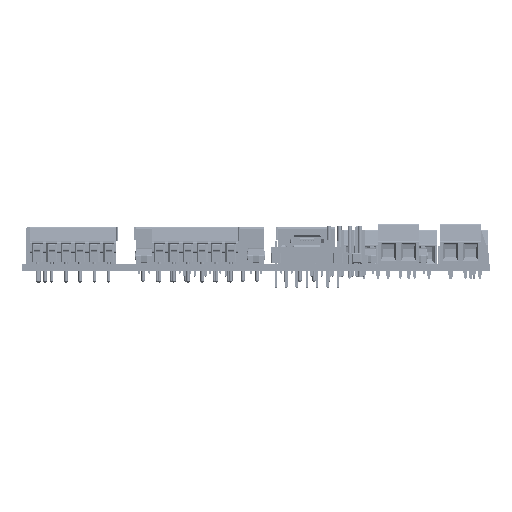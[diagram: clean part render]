
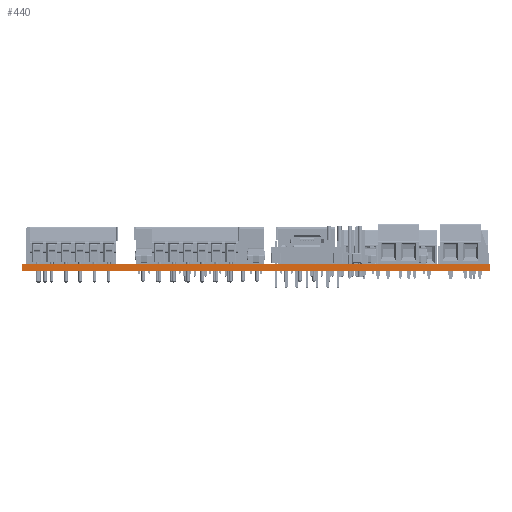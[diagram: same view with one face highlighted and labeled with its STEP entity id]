
A CAD part, front view. The second image highlights one B-rep face of the part: STEP entity #440.
In plain terms, the highlighted planar face has unit normal (0, -1, 0).
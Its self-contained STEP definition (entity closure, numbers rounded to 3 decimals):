
#440 = ADVANCED_FACE('',(#441),#455,.F.);
#441 = FACE_BOUND('',#442,.F.);
#442 = EDGE_LOOP('',(#443,#478,#506,#534));
#443 = ORIENTED_EDGE('',*,*,#444,.T.);
#444 = EDGE_CURVE('',#445,#447,#449,.T.);
#445 = VERTEX_POINT('',#446);
#446 = CARTESIAN_POINT('',(0.,0.,0.));
#447 = VERTEX_POINT('',#448);
#448 = CARTESIAN_POINT('',(0.,0.,1.646));
#449 = SURFACE_CURVE('',#450,(#454,#466),.PCURVE_S1.);
#450 = LINE('',#451,#452);
#451 = CARTESIAN_POINT('',(0.,0.,0.));
#452 = VECTOR('',#453,1.);
#453 = DIRECTION('',(0.,0.,1.));
#454 = PCURVE('',#455,#460);
#455 = PLANE('',#456);
#456 = AXIS2_PLACEMENT_3D('',#457,#458,#459);
#457 = CARTESIAN_POINT('',(0.,0.,0.));
#458 = DIRECTION('',(0.,1.,0.));
#459 = DIRECTION('',(1.,0.,0.));
#460 = DEFINITIONAL_REPRESENTATION('',(#461),#465);
#461 = LINE('',#462,#463);
#462 = CARTESIAN_POINT('',(0.,0.));
#463 = VECTOR('',#464,1.);
#464 = DIRECTION('',(0.,-1.));
#465 = ( GEOMETRIC_REPRESENTATION_CONTEXT(2) 
PARAMETRIC_REPRESENTATION_CONTEXT() REPRESENTATION_CONTEXT('2D SPACE',''
  ) );
#466 = PCURVE('',#467,#472);
#467 = PLANE('',#468);
#468 = AXIS2_PLACEMENT_3D('',#469,#470,#471);
#469 = CARTESIAN_POINT('',(0.,195.,0.));
#470 = DIRECTION('',(1.,0.,0.));
#471 = DIRECTION('',(0.,-1.,0.));
#472 = DEFINITIONAL_REPRESENTATION('',(#473),#477);
#473 = LINE('',#474,#475);
#474 = CARTESIAN_POINT('',(195.,0.));
#475 = VECTOR('',#476,1.);
#476 = DIRECTION('',(0.,-1.));
#477 = ( GEOMETRIC_REPRESENTATION_CONTEXT(2) 
PARAMETRIC_REPRESENTATION_CONTEXT() REPRESENTATION_CONTEXT('2D SPACE',''
  ) );
#478 = ORIENTED_EDGE('',*,*,#479,.T.);
#479 = EDGE_CURVE('',#447,#480,#482,.T.);
#480 = VERTEX_POINT('',#481);
#481 = CARTESIAN_POINT('',(115.,0.,1.646));
#482 = SURFACE_CURVE('',#483,(#487,#494),.PCURVE_S1.);
#483 = LINE('',#484,#485);
#484 = CARTESIAN_POINT('',(0.,0.,1.646));
#485 = VECTOR('',#486,1.);
#486 = DIRECTION('',(1.,0.,0.));
#487 = PCURVE('',#455,#488);
#488 = DEFINITIONAL_REPRESENTATION('',(#489),#493);
#489 = LINE('',#490,#491);
#490 = CARTESIAN_POINT('',(0.,-1.646));
#491 = VECTOR('',#492,1.);
#492 = DIRECTION('',(1.,0.));
#493 = ( GEOMETRIC_REPRESENTATION_CONTEXT(2) 
PARAMETRIC_REPRESENTATION_CONTEXT() REPRESENTATION_CONTEXT('2D SPACE',''
  ) );
#494 = PCURVE('',#495,#500);
#495 = PLANE('',#496);
#496 = AXIS2_PLACEMENT_3D('',#497,#498,#499);
#497 = CARTESIAN_POINT('',(0.,0.,1.646));
#498 = DIRECTION('',(0.,0.,-1.));
#499 = DIRECTION('',(-1.,0.,0.));
#500 = DEFINITIONAL_REPRESENTATION('',(#501),#505);
#501 = LINE('',#502,#503);
#502 = CARTESIAN_POINT('',(0.,0.));
#503 = VECTOR('',#504,1.);
#504 = DIRECTION('',(-1.,0.));
#505 = ( GEOMETRIC_REPRESENTATION_CONTEXT(2) 
PARAMETRIC_REPRESENTATION_CONTEXT() REPRESENTATION_CONTEXT('2D SPACE',''
  ) );
#506 = ORIENTED_EDGE('',*,*,#507,.F.);
#507 = EDGE_CURVE('',#508,#480,#510,.T.);
#508 = VERTEX_POINT('',#509);
#509 = CARTESIAN_POINT('',(115.,0.,0.));
#510 = SURFACE_CURVE('',#511,(#515,#522),.PCURVE_S1.);
#511 = LINE('',#512,#513);
#512 = CARTESIAN_POINT('',(115.,0.,0.));
#513 = VECTOR('',#514,1.);
#514 = DIRECTION('',(0.,0.,1.));
#515 = PCURVE('',#455,#516);
#516 = DEFINITIONAL_REPRESENTATION('',(#517),#521);
#517 = LINE('',#518,#519);
#518 = CARTESIAN_POINT('',(115.,0.));
#519 = VECTOR('',#520,1.);
#520 = DIRECTION('',(0.,-1.));
#521 = ( GEOMETRIC_REPRESENTATION_CONTEXT(2) 
PARAMETRIC_REPRESENTATION_CONTEXT() REPRESENTATION_CONTEXT('2D SPACE',''
  ) );
#522 = PCURVE('',#523,#528);
#523 = PLANE('',#524);
#524 = AXIS2_PLACEMENT_3D('',#525,#526,#527);
#525 = CARTESIAN_POINT('',(115.,0.,0.));
#526 = DIRECTION('',(-1.,0.,0.));
#527 = DIRECTION('',(0.,1.,0.));
#528 = DEFINITIONAL_REPRESENTATION('',(#529),#533);
#529 = LINE('',#530,#531);
#530 = CARTESIAN_POINT('',(0.,0.));
#531 = VECTOR('',#532,1.);
#532 = DIRECTION('',(0.,-1.));
#533 = ( GEOMETRIC_REPRESENTATION_CONTEXT(2) 
PARAMETRIC_REPRESENTATION_CONTEXT() REPRESENTATION_CONTEXT('2D SPACE',''
  ) );
#534 = ORIENTED_EDGE('',*,*,#535,.F.);
#535 = EDGE_CURVE('',#445,#508,#536,.T.);
#536 = SURFACE_CURVE('',#537,(#541,#548),.PCURVE_S1.);
#537 = LINE('',#538,#539);
#538 = CARTESIAN_POINT('',(0.,0.,0.));
#539 = VECTOR('',#540,1.);
#540 = DIRECTION('',(1.,0.,0.));
#541 = PCURVE('',#455,#542);
#542 = DEFINITIONAL_REPRESENTATION('',(#543),#547);
#543 = LINE('',#544,#545);
#544 = CARTESIAN_POINT('',(0.,0.));
#545 = VECTOR('',#546,1.);
#546 = DIRECTION('',(1.,0.));
#547 = ( GEOMETRIC_REPRESENTATION_CONTEXT(2) 
PARAMETRIC_REPRESENTATION_CONTEXT() REPRESENTATION_CONTEXT('2D SPACE',''
  ) );
#548 = PCURVE('',#549,#554);
#549 = PLANE('',#550);
#550 = AXIS2_PLACEMENT_3D('',#551,#552,#553);
#551 = CARTESIAN_POINT('',(0.,0.,0.));
#552 = DIRECTION('',(0.,0.,-1.));
#553 = DIRECTION('',(-1.,0.,0.));
#554 = DEFINITIONAL_REPRESENTATION('',(#555),#559);
#555 = LINE('',#556,#557);
#556 = CARTESIAN_POINT('',(0.,0.));
#557 = VECTOR('',#558,1.);
#558 = DIRECTION('',(-1.,0.));
#559 = ( GEOMETRIC_REPRESENTATION_CONTEXT(2) 
PARAMETRIC_REPRESENTATION_CONTEXT() REPRESENTATION_CONTEXT('2D SPACE',''
  ) );
